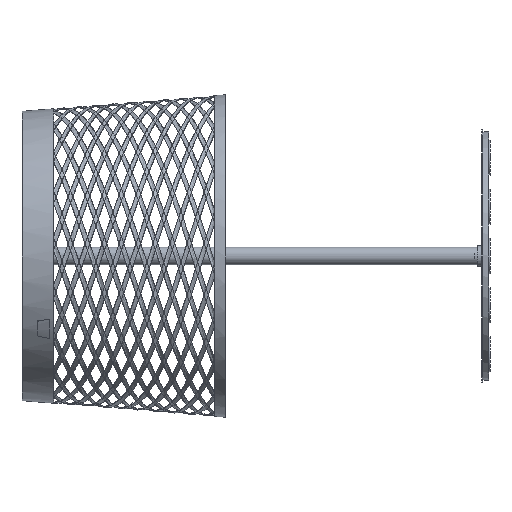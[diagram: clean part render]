
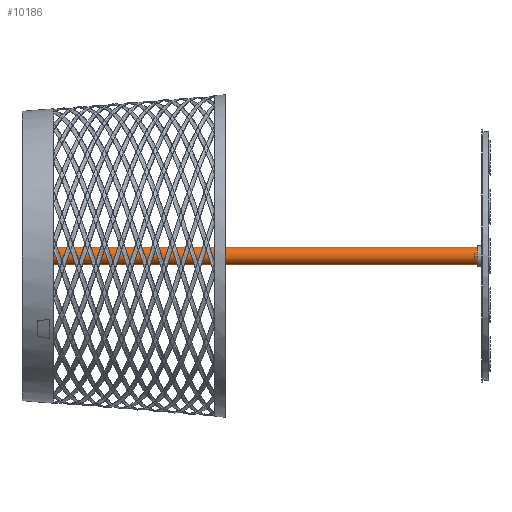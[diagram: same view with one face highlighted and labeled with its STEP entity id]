
A CAD part, left-side view. The second image highlights one B-rep face of the part: STEP entity #10186.
In plain terms, the highlighted cylindrical face has radius 12.5 mm (diameter 25 mm), a partial arc.
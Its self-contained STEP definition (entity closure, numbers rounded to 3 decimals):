
#1039 = CYLINDRICAL_SURFACE ( 'NONE', #39106, 12.5 ) ;
#1956 = CARTESIAN_POINT ( 'NONE',  ( -110.067, 636.089, 52.585 ) ) ;
#2914 = AXIS2_PLACEMENT_3D ( 'NONE', #52173, #24238, #12522 ) ;
#3036 = DIRECTION ( 'NONE',  ( 0., 1., 0. ) ) ;
#4101 = CARTESIAN_POINT ( 'NONE',  ( -110.067, 26.089, 40.085 ) ) ;
#4104 = EDGE_LOOP ( 'NONE', ( #55055, #52934, #22167, #19193 ) ) ;
#4339 = CARTESIAN_POINT ( 'NONE',  ( -110.067, 636.089, 40.085 ) ) ;
#4874 = CIRCLE ( 'NONE', #2914, 12.5 ) ;
#5272 = CARTESIAN_POINT ( 'NONE',  ( -110.067, 636.089, 65.085 ) ) ;
#6817 = DIRECTION ( 'NONE',  ( 0., -1., 0. ) ) ;
#8329 = LINE ( 'NONE', #27024, #59103 ) ;
#9709 = LINE ( 'NONE', #14025, #44636 ) ;
#10186 = ADVANCED_FACE ( 'NONE', ( #42967 ), #1039, .T. ) ;
#12522 = DIRECTION ( 'NONE',  ( 0., 0., 1. ) ) ;
#14025 = CARTESIAN_POINT ( 'NONE',  ( -110.067, 636.089, 65.085 ) ) ;
#18855 = VERTEX_POINT ( 'NONE', #4101 ) ;
#19184 = VERTEX_POINT ( 'NONE', #4339 ) ;
#19193 = ORIENTED_EDGE ( 'NONE', *, *, #54898, .T. ) ;
#22167 = ORIENTED_EDGE ( 'NONE', *, *, #55699, .T. ) ;
#24238 = DIRECTION ( 'NONE',  ( 0., 1., 0. ) ) ;
#24466 = EDGE_CURVE ( 'NONE', #19184, #60644, #4874, .T. ) ;
#26558 = CARTESIAN_POINT ( 'NONE',  ( -110.067, 26.089, 52.585 ) ) ;
#27024 = CARTESIAN_POINT ( 'NONE',  ( -110.067, 636.089, 40.085 ) ) ;
#28632 = AXIS2_PLACEMENT_3D ( 'NONE', #26558, #3036, #44379 ) ;
#29895 = VERTEX_POINT ( 'NONE', #43577 ) ;
#33047 = DIRECTION ( 'NONE',  ( 0., -1., 0. ) ) ;
#39016 = DIRECTION ( 'NONE',  ( 0., 0., -1. ) ) ;
#39106 = AXIS2_PLACEMENT_3D ( 'NONE', #1956, #6817, #39016 ) ;
#42967 = FACE_OUTER_BOUND ( 'NONE', #4104, .T. ) ;
#43577 = CARTESIAN_POINT ( 'NONE',  ( -110.067, 26.089, 65.085 ) ) ;
#44379 = DIRECTION ( 'NONE',  ( 0., 0., 1. ) ) ;
#44636 = VECTOR ( 'NONE', #33047, 1000. ) ;
#45124 = DIRECTION ( 'NONE',  ( 0., -1., 0. ) ) ;
#47279 = CIRCLE ( 'NONE', #28632, 12.5 ) ;
#52173 = CARTESIAN_POINT ( 'NONE',  ( -110.067, 636.089, 52.585 ) ) ;
#52934 = ORIENTED_EDGE ( 'NONE', *, *, #24466, .F. ) ;
#54898 = EDGE_CURVE ( 'NONE', #18855, #29895, #47279, .T. ) ;
#55055 = ORIENTED_EDGE ( 'NONE', *, *, #58012, .F. ) ;
#55699 = EDGE_CURVE ( 'NONE', #19184, #18855, #8329, .T. ) ;
#58012 = EDGE_CURVE ( 'NONE', #60644, #29895, #9709, .T. ) ;
#59103 = VECTOR ( 'NONE', #45124, 1000. ) ;
#60644 = VERTEX_POINT ( 'NONE', #5272 ) ;
